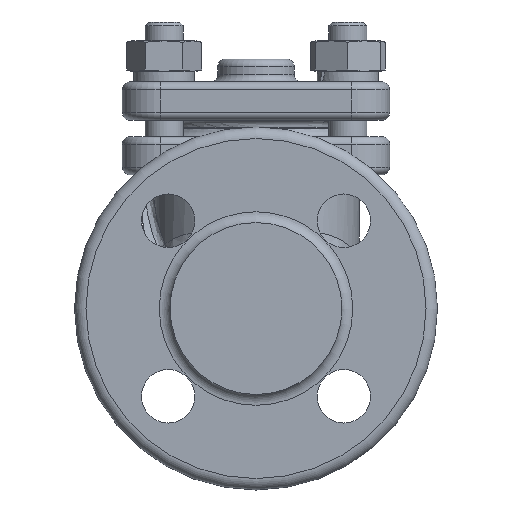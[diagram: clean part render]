
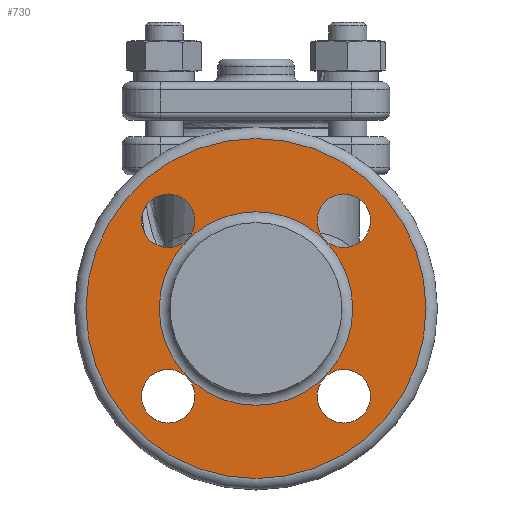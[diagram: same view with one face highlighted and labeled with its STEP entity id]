
A CAD part, front view. The second image highlights one B-rep face of the part: STEP entity #730.
In plain terms, the highlighted planar face has unit normal (0, -1, 0).
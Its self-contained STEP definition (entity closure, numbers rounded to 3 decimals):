
#165=PLANE('',#4446);
#315=FACE_BOUND('',#1302,.T.);
#316=FACE_BOUND('',#1303,.T.);
#317=FACE_BOUND('',#1304,.T.);
#318=FACE_BOUND('',#1305,.T.);
#319=FACE_BOUND('',#1306,.T.);
#320=FACE_BOUND('',#1307,.T.);
#730=ADVANCED_FACE('',(#315,#316,#317,#318,#319,#320),#165,.T.);
#1302=EDGE_LOOP('',(#2033));
#1303=EDGE_LOOP('',(#2034));
#1304=EDGE_LOOP('',(#2035));
#1305=EDGE_LOOP('',(#2036));
#1306=EDGE_LOOP('',(#2037));
#1307=EDGE_LOOP('',(#2038));
#2033=ORIENTED_EDGE('',*,*,#3612,.T.);
#2034=ORIENTED_EDGE('',*,*,#3613,.T.);
#2035=ORIENTED_EDGE('',*,*,#3614,.T.);
#2036=ORIENTED_EDGE('',*,*,#3615,.F.);
#2037=ORIENTED_EDGE('',*,*,#3616,.F.);
#2038=ORIENTED_EDGE('',*,*,#3617,.T.);
#3203=VERTEX_POINT('',#8627);
#3204=VERTEX_POINT('',#8629);
#3205=VERTEX_POINT('',#8631);
#3206=VERTEX_POINT('',#8633);
#3207=VERTEX_POINT('',#8635);
#3208=VERTEX_POINT('',#8637);
#3612=EDGE_CURVE('',#3203,#3203,#4159,.T.);
#3613=EDGE_CURVE('',#3204,#3204,#4160,.T.);
#3614=EDGE_CURVE('',#3205,#3205,#4161,.T.);
#3615=EDGE_CURVE('',#3206,#3206,#4162,.T.);
#3616=EDGE_CURVE('',#3207,#3207,#4163,.T.);
#3617=EDGE_CURVE('',#3208,#3208,#4164,.T.);
#4159=CIRCLE('',#4440,44.5);
#4160=CIRCLE('',#4441,7.);
#4161=CIRCLE('',#4442,25.328);
#4162=CIRCLE('',#4443,7.);
#4163=CIRCLE('',#4444,7.);
#4164=CIRCLE('',#4445,7.);
#4440=AXIS2_PLACEMENT_3D('',#8626,#5060,#5061);
#4441=AXIS2_PLACEMENT_3D('',#8628,#5062,#5063);
#4442=AXIS2_PLACEMENT_3D('',#8630,#5064,#5065);
#4443=AXIS2_PLACEMENT_3D('',#8632,#5066,#5067);
#4444=AXIS2_PLACEMENT_3D('',#8634,#5068,#5069);
#4445=AXIS2_PLACEMENT_3D('',#8636,#5070,#5071);
#4446=AXIS2_PLACEMENT_3D('',#8638,#5072,#5073);
#5060=DIRECTION('',(0.,-1.,0.));
#5061=DIRECTION('',(1.,0.,0.));
#5062=DIRECTION('',(0.,1.,0.));
#5063=DIRECTION('',(1.,0.,0.));
#5064=DIRECTION('',(0.,1.,0.));
#5065=DIRECTION('',(1.,0.,0.));
#5066=DIRECTION('',(0.,-1.,0.));
#5067=DIRECTION('',(1.,0.,0.));
#5068=DIRECTION('',(0.,-1.,0.));
#5069=DIRECTION('',(1.,0.,0.));
#5070=DIRECTION('',(0.,1.,0.));
#5071=DIRECTION('',(1.,0.,0.));
#5072=DIRECTION('',(0.,-1.,0.));
#5073=DIRECTION('',(1.,0.,0.));
#8626=CARTESIAN_POINT('',(21.5,-63.,0.));
#8627=CARTESIAN_POINT('',(66.,-63.,0.));
#8628=CARTESIAN_POINT('',(-1.481,-63.,-22.981));
#8629=CARTESIAN_POINT('',(5.519,-63.,-22.981));
#8630=CARTESIAN_POINT('',(21.5,-63.,0.));
#8631=CARTESIAN_POINT('',(46.828,-63.,0.));
#8632=CARTESIAN_POINT('',(44.481,-63.,-22.981));
#8633=CARTESIAN_POINT('',(51.481,-63.,-22.981));
#8634=CARTESIAN_POINT('',(-1.481,-63.,22.981));
#8635=CARTESIAN_POINT('',(5.519,-63.,22.981));
#8636=CARTESIAN_POINT('',(44.481,-63.,22.981));
#8637=CARTESIAN_POINT('',(51.481,-63.,22.981));
#8638=CARTESIAN_POINT('',(21.5,-63.,22.5));
